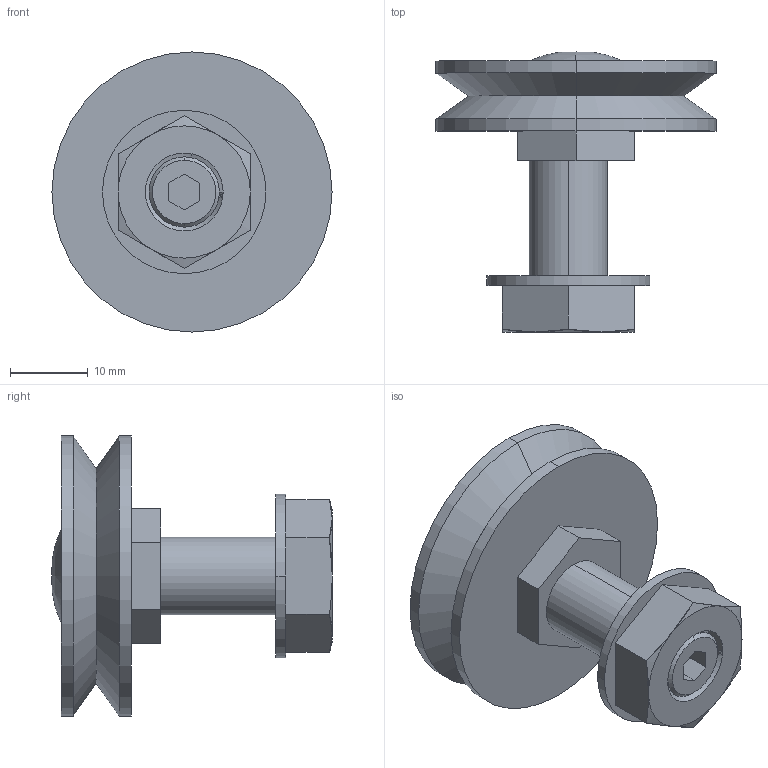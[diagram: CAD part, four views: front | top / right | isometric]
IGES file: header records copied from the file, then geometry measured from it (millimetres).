
Start section: 3D InterOp IGES (v. 2019 1.0.2), Spatial Corp. Copyright (c) 1999-2017.
Global section: file name: GLJ 360 E.igs; native system: Spatial Corp.; preprocessor: 3D InterOp GENERIC/IGES 3.0; author: Noname; organization: Noname; date: 20220628.170611; units: millimetre
Bounding box: 36 x 36.05 x 36 mm (x, y, z)
Surface area: 5097.1 mm2 (no closed solid volume)
Topology: 0 solids, 0 shells, 50 faces, 234 edges, 232 vertices
Faces by surface type: extrusion 26, revolution 22, bspline 2
